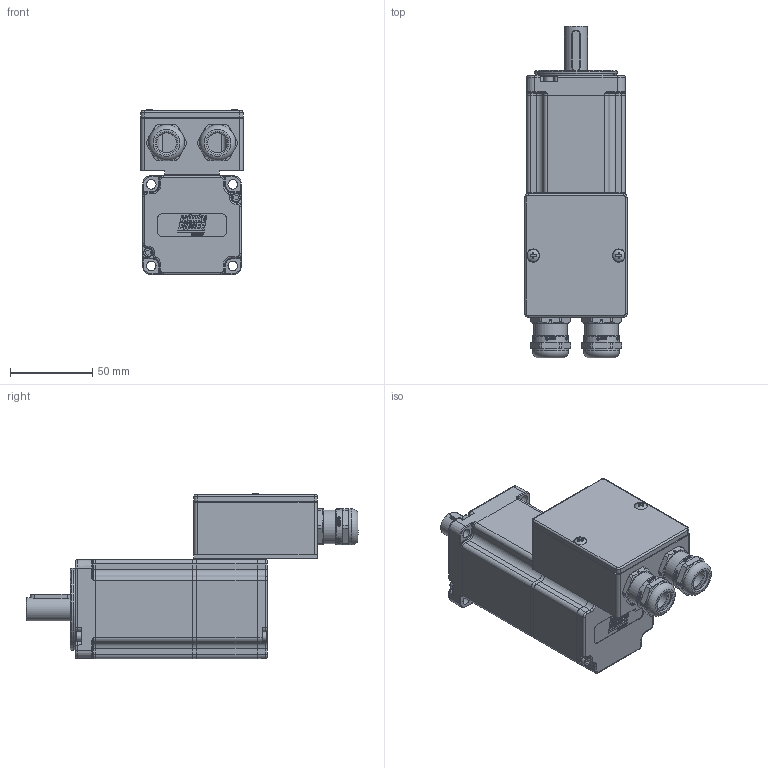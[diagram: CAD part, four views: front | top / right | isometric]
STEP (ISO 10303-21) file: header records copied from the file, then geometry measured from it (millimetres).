
FILE_DESCRIPTION(/* description */ ('Unknown'),/* implementation_level */ '2;1');
FILE_NAME(/* name */ 'TC4-60.2A LV M1 MORS Q0C151',/* time_stamp */ '2026-06-09T11:42:47+02:00',/* author */ ('Unknown'),/* organization */ ('Unknown'),/* preprocessor_version */ 'ST-DEVELOPER v19.4',/* originating_system */ 'Solid Edge',/* authorisation */ 'Unknown');
FILE_SCHEMA (('AUTOMOTIVE_DESIGN {1 0 10303 214 3 1 1}'));
Products named in the file (24): Q0C151 VUOTO M1; 003103040220; 005911000203; 005119001310; 007303000700; 005911000201; 003151003184; 005911000503; 003107003285; 003155002207; 005911000492; 003251040722; Albero TC4 60 H18 LV V2; 005911000495; 007303000800; 003110000040; 005113000400; 005603000160; 005603000160_Gland; 005603000160_Nut; 005603000160_Clamping insert; 005603000160_Sealing insert; 005603000160_O Ring; 003755100323
Assembly tree (32 placements, depth 3):
  Q0C151 VUOTO M1
    003103040220
    005911000203  x4
    005119001310
    007303000700
    005911000201
    003151003184
    005911000503  x2
    003107003285
    003155002207
    005911000492  x2
    003251040722
    Albero TC4 60 H18 LV V2
    005911000495  x4
    007303000800
    003110000040
    005113000400
    005603000160  x2
      005603000160_Gland
      005603000160_Nut
      005603000160_Clamping insert
      005603000160_Sealing insert
      005603000160_O Ring
    003755100323
Bounding box: 62 x 201.65 x 100.3 mm (x, y, z)
Volume: 223653.9 mm3; surface area: 159348 mm2
Topology: 36 solids, 37 shells, 2852 faces, 7189 edges, 4597 vertices
Faces by surface type: plane 1636, cylinder 603, bspline 226, cone 193, torus 174, sphere 20
Full cylindrical faces by diameter (mm): 2.013 x8, 2.459 x16, 2.5 x1, 3 x11, 3.2 x1, 3.242 x7, 3.5 x18, 3.9 x2, 4 x4, 4.134 x1, 4.25 x4, 4.5 x4, 5 x8, 5.25 x4, 5.3 x1, 5.5 x7, 5.8 x4, 7 x4, 7.5 x2, 8 x2, 10 x1, 12 x2, 12.2 x2, 12.3 x2, 13 x1, 14 x3, 14.1 x4, 14.5 x1, 14.99 x1, 15 x1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
Entity records: 78420 total; most frequent: CARTESIAN_POINT 18582, DIRECTION 10195, ORIENTED_EDGE 10174, EDGE_CURVE 5087, AXIS2_PLACEMENT_3D 3738, VERTEX_POINT 3405, FACE_BOUND 2758, EDGE_LOOP 2740
